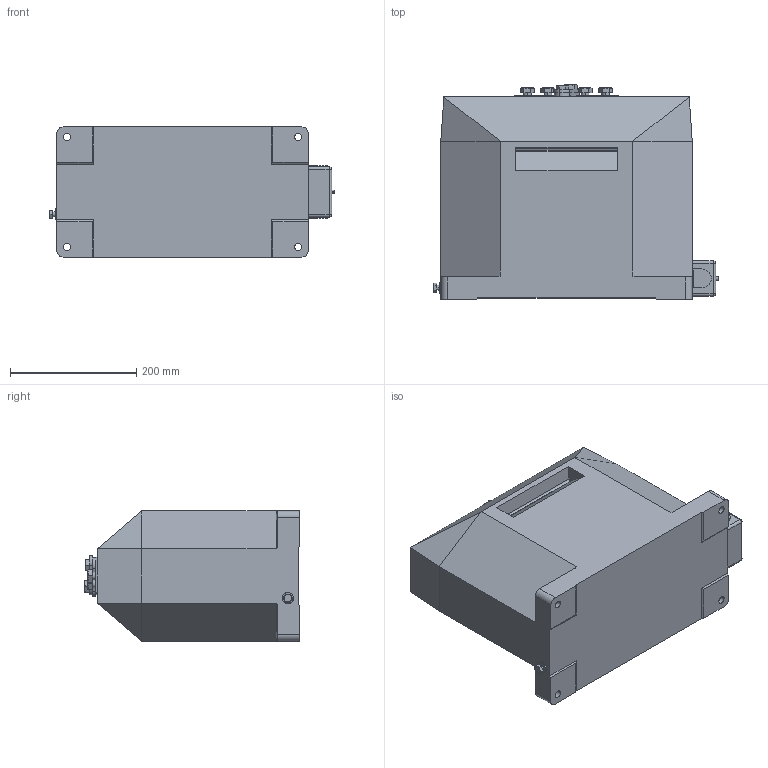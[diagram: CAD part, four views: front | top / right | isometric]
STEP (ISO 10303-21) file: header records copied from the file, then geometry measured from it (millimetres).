
FILE_DESCRIPTION (( 'STEP AP214' ), '1' );
FILE_NAME ('24305-022_AM-40b_2x5-300A_soros.STEP', '2025-10-07T08:33:33', ( '' ), ( '' ), 'SwSTEP 2.0', 'SolidWorks 2020', '' );
FILE_SCHEMA (( 'AUTOMOTIVE_DESIGN' ));
Length unit declared in the file: millimetre
Products named in the file (1): 24305-022_AM-40b_2x5-300A_soros
Bounding box: 452 x 339.5 x 206 mm (x, y, z)
Volume: 21587400.7 mm3; surface area: 530194.4 mm2
Topology: 1 solids, 2 shells, 355 faces, 933 edges, 592 vertices
Faces by surface type: plane 199, cylinder 122, cone 18, sphere 8, torus 4, bspline 4
Entity records: 13261 total; most frequent: CARTESIAN_POINT 2799, ORIENTED_EDGE 1850, DIRECTION 1797, EDGE_CURVE 925, AXIS2_PLACEMENT_3D 613, VERTEX_POINT 592, LINE 571, VECTOR 571
